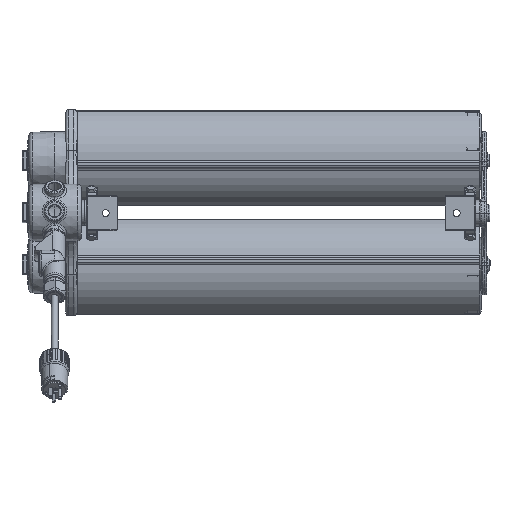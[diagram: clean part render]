
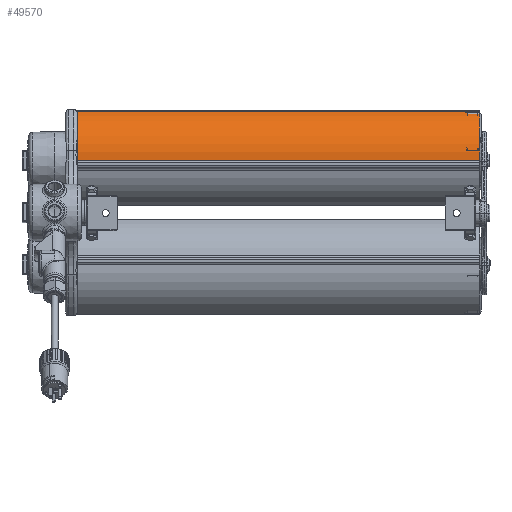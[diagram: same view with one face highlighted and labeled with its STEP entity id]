
A CAD part, front view. The second image highlights one B-rep face of the part: STEP entity #49570.
In plain terms, the highlighted cylindrical face has radius 76.103 mm (diameter 152.207 mm), a partial arc.
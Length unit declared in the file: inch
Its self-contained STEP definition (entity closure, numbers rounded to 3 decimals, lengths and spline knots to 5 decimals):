
#291 = CARTESIAN_POINT ( 'NONE',  ( -12.38534, -0.65432, -20.60943 ) ) ;
#389 = DIRECTION ( 'NONE',  ( 1., 0., 0. ) ) ;
#2885 = CARTESIAN_POINT ( 'NONE',  ( -9.71522, -2.01362, 2.51557 ) ) ;
#4304 = ORIENTED_EDGE ( 'NONE', *, *, #61342, .T. ) ;
#6043 = CARTESIAN_POINT ( 'NONE',  ( -9.71522, -2.01362, 2.51557 ) ) ;
#6086 = CARTESIAN_POINT ( 'NONE',  ( -12.38534, -0.65432, 2.51557 ) ) ;
#7572 = DIRECTION ( 'NONE',  ( 0., 0., 1. ) ) ;
#9511 = VERTEX_POINT ( 'NONE', #12700 ) ;
#11479 = AXIS2_PLACEMENT_3D ( 'NONE', #6043, #43986, #39296 ) ;
#12700 = CARTESIAN_POINT ( 'NONE',  ( -9.54571, 0.97779, 2.51557 ) ) ;
#12847 = VERTEX_POINT ( 'NONE', #38757 ) ;
#13995 = EDGE_CURVE ( 'NONE', #12847, #15765, #27786, .T. ) ;
#15066 = EDGE_CURVE ( 'NONE', #9511, #49365, #60660, .T. ) ;
#15765 = VERTEX_POINT ( 'NONE', #291 ) ;
#22534 = VECTOR ( 'NONE', #57761, 39.37008 ) ;
#24193 = CARTESIAN_POINT ( 'NONE',  ( -9.71522, -2.01362, -20.60943 ) ) ;
#24610 = ORIENTED_EDGE ( 'NONE', *, *, #58317, .F. ) ;
#24849 = CYLINDRICAL_SURFACE ( 'NONE', #11479, 2.9962 ) ;
#26678 = DIRECTION ( 'NONE',  ( 1., 0., 0. ) ) ;
#27786 = LINE ( 'NONE', #6086, #54527 ) ;
#30652 = EDGE_LOOP ( 'NONE', ( #24610, #47453, #4304, #59886 ) ) ;
#38069 = FACE_OUTER_BOUND ( 'NONE', #30652, .T. ) ;
#38757 = CARTESIAN_POINT ( 'NONE',  ( -12.38534, -0.65432, 2.51557 ) ) ;
#39296 = DIRECTION ( 'NONE',  ( -1., 0., 0. ) ) ;
#42749 = CARTESIAN_POINT ( 'NONE',  ( -9.54571, 0.97779, -20.60943 ) ) ;
#42841 = AXIS2_PLACEMENT_3D ( 'NONE', #24193, #43324, #389 ) ;
#42875 = DIRECTION ( 'NONE',  ( 0., 0., -1. ) ) ;
#43324 = DIRECTION ( 'NONE',  ( 0., 0., 1. ) ) ;
#43986 = DIRECTION ( 'NONE',  ( 0., 0., -1. ) ) ;
#46712 = AXIS2_PLACEMENT_3D ( 'NONE', #2885, #7572, #26678 ) ;
#47453 = ORIENTED_EDGE ( 'NONE', *, *, #15066, .T. ) ;
#47703 = CARTESIAN_POINT ( 'NONE',  ( -9.54571, 0.97779, 2.51557 ) ) ;
#49365 = VERTEX_POINT ( 'NONE', #42749 ) ;
#49570 = ADVANCED_FACE ( 'NONE', ( #38069 ), #24849, .T. ) ;
#54527 = VECTOR ( 'NONE', #42875, 39.37008 ) ;
#56859 = CIRCLE ( 'NONE', #42841, 2.9962 ) ;
#57761 = DIRECTION ( 'NONE',  ( 0., 0., -1. ) ) ;
#58317 = EDGE_CURVE ( 'NONE', #9511, #12847, #61769, .T. ) ;
#59886 = ORIENTED_EDGE ( 'NONE', *, *, #13995, .F. ) ;
#60660 = LINE ( 'NONE', #47703, #22534 ) ;
#61342 = EDGE_CURVE ( 'NONE', #49365, #15765, #56859, .T. ) ;
#61769 = CIRCLE ( 'NONE', #46712, 2.9962 ) ;
